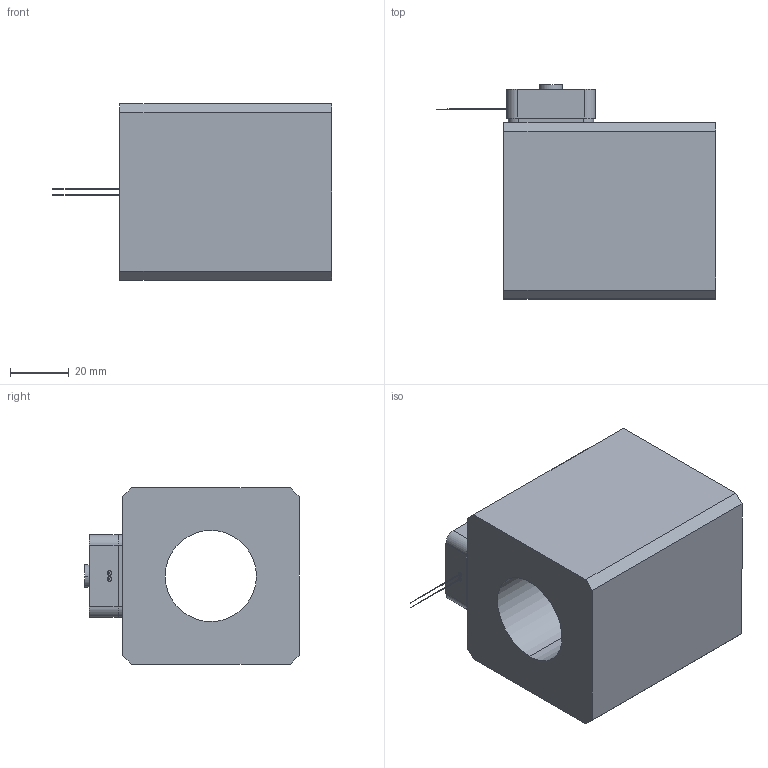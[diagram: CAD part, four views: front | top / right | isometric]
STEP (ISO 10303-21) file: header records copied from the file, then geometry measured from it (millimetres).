
FILE_DESCRIPTION (( 'STEP AP214' ), '1' );
FILE_NAME ('MLS60_31x72-M47.STEP', '2015-07-17T07:54:01', ( '' ), ( '' ), 'SwSTEP 2.0', 'SolidWorks 2014', '' );
FILE_SCHEMA (( 'AUTOMOTIVE_DESIGN' ));
Length unit declared in the file: millimetre
Products named in the file (2): MLS60_31x72-M47
Bounding box: 95 x 72.8 x 60 mm (x, y, z)
Volume: 219016.2 mm3; surface area: 41143.9 mm2
Topology: 12 solids, 13 shells, 281 faces, 694 edges, 456 vertices
Faces by surface type: plane 178, cylinder 85, cone 14, torus 2, bspline 2
Entity records: 11610 total; most frequent: CARTESIAN_POINT 1500, DIRECTION 1450, ORIENTED_EDGE 1384, EDGE_CURVE 692, AXIS2_PLACEMENT_3D 490, VECTOR 470, LINE 470, VERTEX_POINT 456
